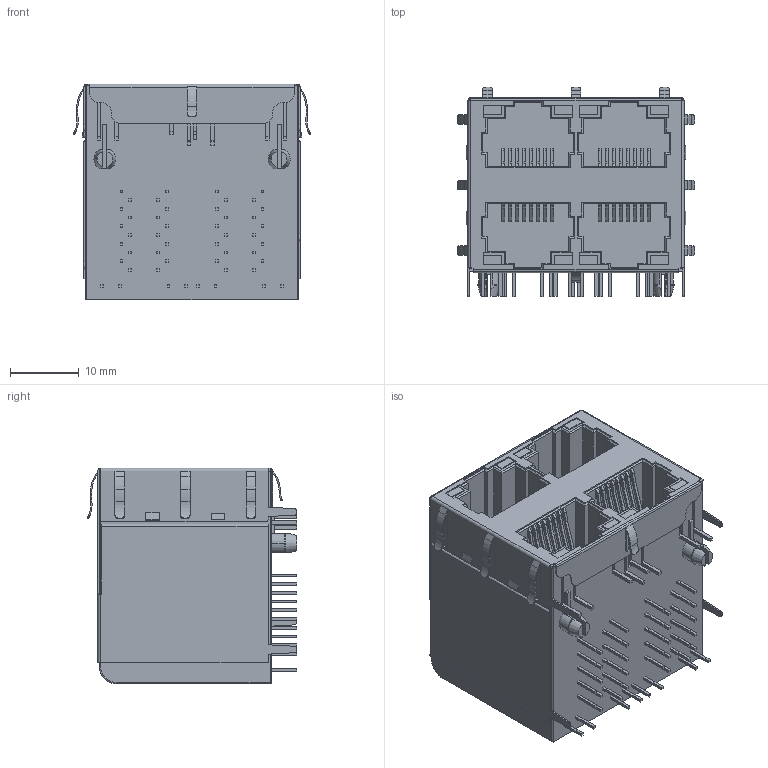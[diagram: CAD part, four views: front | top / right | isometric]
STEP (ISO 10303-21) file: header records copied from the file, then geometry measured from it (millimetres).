
FILE_DESCRIPTION (( 'STEP AP203' ), '1' );
FILE_NAME ('LPJG27747AFNL.STEP', '2026-05-07T09:46:48', ( '' ), ( '' ), 'SwSTEP 2.0', 'SolidWorks 2023', '' );
FILE_SCHEMA (( 'CONFIG_CONTROL_DESIGN' ));
Products named in the file (1): LPJG27747AFNL
Bounding box: 34.61 x 30.58 x 31.4 mm (x, y, z)
Volume: 21297 mm3; surface area: 14228.1 mm2
Topology: 60 solids, 60 shells, 1793 faces, 4648 edges, 3002 vertices
Faces by surface type: plane 1533, cylinder 206, bspline 48, cone 4, torus 2
Entity records: 55739 total; most frequent: CARTESIAN_POINT 11976, ORIENTED_EDGE 9296, DIRECTION 8442, EDGE_CURVE 4648, LINE 4030, VECTOR 4030, VERTEX_POINT 3002, AXIS2_PLACEMENT_3D 2206
